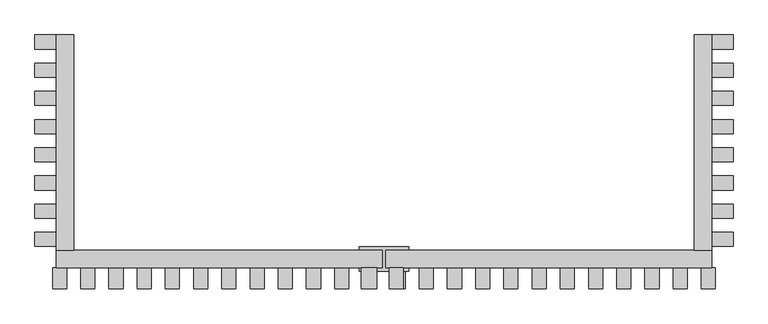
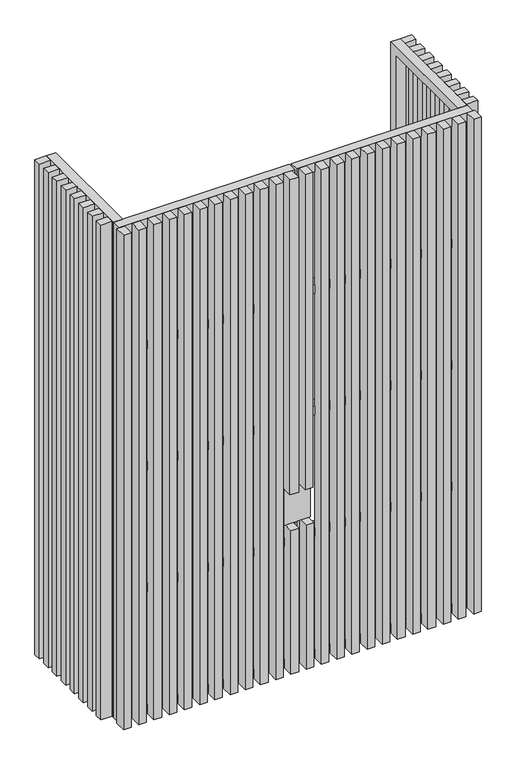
"""IFC4 building model written with IfcOpenShell, lengths in millimetres: furniture geometry, ARQ-MB-EX-Al : ARQ-MB-EX-Al."""

from ifc_helpers import new_model, si_unit, frame, origin, origin_with_axes, place, context, project, spatial, polyline, outline, extrude, source, transform, mapped, element, save


def furniture_89fc56a2(model_context):
    return source(origin(), model_context, "Body", "SweptSolid", [
        extrude(outline(polyline([(99.7003264, -700.0), (99.7003264, -760.0), (59.7003264, -760.0), (59.7003264, -700.0), (99.7003264, -700.0)])), frame((0.0, 0.0, 1000.0), z_axis=(0.0, 0.0, 1.0), x_axis=(1.0, 0.0, 0.0)), (0.0, 0.0, 1.0), 1750.0),
        extrude(outline(polyline([(-20.2996736, -700.0), (24.7003264, -700.0), (24.7003264, -760.0), (-20.2996736, -760.0), (-20.2996736, -700.0)])), frame((0.0, 0.0, 1000.0), z_axis=(0.0, 0.0, 1.0), x_axis=(1.0, 0.0, 0.0)), (0.0, 0.0, 1.0), 1750.0),
        extrude(outline(polyline([(-650.0, 2750.0), (-40.0, 2750.0), (-40.0, 0.0), (-650.0, 0.0), (-650.0, 2750.0)]), holes=[polyline([(-600.0, 2025.0), (-600.0, 1400.0), (-90.0, 1400.0), (-90.0, 2025.0), (-600.0, 2025.0)]), polyline([(-90.0, 675.0), (-600.0, 675.0), (-600.0, 50.0), (-90.0, 50.0), (-90.0, 675.0)]), polyline([(-600.0, 1350.0), (-600.0, 725.0), (-90.0, 725.0), (-90.0, 1350.0), (-600.0, 1350.0)]), polyline([(-600.0, 2700.0), (-600.0, 2075.0), (-90.0, 2075.0), (-90.0, 2700.0), (-600.0, 2700.0)])]), frame((-885.2996736, 0.0, 0.0), z_axis=(1.0, 0.0, 0.0), x_axis=(0.0, 1.0, 0.0)), (0.0, 0.0, 1.0), 50.0),
        extrude(outline(polyline([(-650.0, 2750.0), (-40.0, 2750.0), (-40.0, 0.0), (-650.0, 0.0), (-650.0, 2750.0)]), holes=[polyline([(-600.0, 50.0), (-90.0, 50.0), (-90.0, 675.0), (-600.0, 675.0), (-600.0, 50.0)]), polyline([(-90.0, 1350.0), (-600.0, 1350.0), (-600.0, 725.0), (-90.0, 725.0), (-90.0, 1350.0)]), polyline([(-90.0, 2700.0), (-600.0, 2700.0), (-600.0, 2075.0), (-90.0, 2075.0), (-90.0, 2700.0)]), polyline([(-90.0, 2025.0), (-600.0, 2025.0), (-600.0, 1400.0), (-90.0, 1400.0), (-90.0, 2025.0)])]), frame((924.7003264, 0.0, 0.0), z_axis=(1.0, 0.0, 0.0), x_axis=(0.0, 1.0, 0.0)), (0.0, 0.0, 1.0), 50.0),
        extrude(outline(polyline([(0.0, 39.7003264), (2750.0, 39.7003264), (2750.0, -885.2996736), (0.0, -885.2996736), (0.0, 39.7003264)]), holes=[polyline([(50.0, -10.2996736), (50.0, -835.2996736), (675.0, -835.2996736), (675.0, -10.2996736), (50.0, -10.2996736)]), polyline([(2075.0, -835.2996736), (2700.0, -835.2996736), (2700.0, -10.2996736), (2075.0, -10.2996736), (2075.0, -835.2996736)]), polyline([(1400.0, -835.2996736), (2025.0, -835.2996736), (2025.0, -10.2996736), (1400.0, -10.2996736), (1400.0, -835.2996736)]), polyline([(725.0, -835.2996736), (1350.0, -835.2996736), (1350.0, -10.2996736), (725.0, -10.2996736), (725.0, -835.2996736)])]), frame((0.0, -700.0, 0.0), z_axis=(0.0, 1.0, 0.0), x_axis=(0.0, 0.0, 1.0)), (0.0, 0.0, 1.0), 50.0),
        extrude(outline(polyline([(2750.0, 49.7003264), (0.0, 49.7003264), (0.0, 974.7003264), (2750.0, 974.7003264), (2750.0, 49.7003264)]), holes=[polyline([(675.0, 934.7003264), (50.0, 934.7003264), (50.0, 99.7003264), (675.0, 99.7003264), (675.0, 934.7003264)]), polyline([(2700.0, 99.7003264), (2700.0, 934.7003264), (2075.0, 934.7003264), (2075.0, 99.7003264), (2700.0, 99.7003264)]), polyline([(1350.0, 99.7003264), (1350.0, 934.7003264), (725.0, 934.7003264), (725.0, 99.7003264), (1350.0, 99.7003264)]), polyline([(2025.0, 99.7003264), (2025.0, 934.7003264), (1400.0, 934.7003264), (1400.0, 99.7003264), (2025.0, 99.7003264)])]), frame((0.0, -700.0, 0.0), z_axis=(0.0, 1.0, 0.0), x_axis=(0.0, 0.0, 1.0)), (0.0, 0.0, 1.0), 50.0),
        extrude(outline(polyline([(-945.2996736, -40.0), (-885.2996736, -40.0), (-885.2996736, -80.0), (-945.2996736, -80.0), (-945.2996736, -40.0)])), origin_with_axes(), (0.0, 0.0, 1.0), 2750.0),
        extrude(outline(polyline([(-945.2996736, -120.0), (-885.2996736, -120.0), (-885.2996736, -160.0), (-945.2996736, -160.0), (-945.2996736, -120.0)])), origin_with_axes(), (0.0, 0.0, 1.0), 2750.0),
        extrude(outline(polyline([(-945.2996736, -200.0), (-885.2996736, -200.0), (-885.2996736, -240.0), (-945.2996736, -240.0), (-945.2996736, -200.0)])), origin_with_axes(), (0.0, 0.0, 1.0), 2750.0),
        extrude(outline(polyline([(-945.2996736, -280.0), (-885.2996736, -280.0), (-885.2996736, -320.0), (-945.2996736, -320.0), (-945.2996736, -280.0)])), origin_with_axes(), (0.0, 0.0, 1.0), 2750.0),
        extrude(outline(polyline([(-945.2996736, -360.0), (-885.2996736, -360.0), (-885.2996736, -400.0), (-945.2996736, -400.0), (-945.2996736, -360.0)])), origin_with_axes(), (0.0, 0.0, 1.0), 2750.0),
        extrude(outline(polyline([(-945.2996736, -440.0), (-885.2996736, -440.0), (-885.2996736, -480.0), (-945.2996736, -480.0), (-945.2996736, -440.0)])), origin_with_axes(), (0.0, 0.0, 1.0), 2750.0),
        extrude(outline(polyline([(-945.2996736, -520.0), (-885.2996736, -520.0), (-885.2996736, -560.0), (-945.2996736, -560.0), (-945.2996736, -520.0)])), origin_with_axes(), (0.0, 0.0, 1.0), 2750.0),
        extrude(outline(polyline([(-945.2996736, -600.0), (-885.2996736, -600.0), (-885.2996736, -640.0), (-945.2996736, -640.0), (-945.2996736, -600.0)])), origin_with_axes(), (0.0, 0.0, 1.0), 2750.0),
        extrude(outline(polyline([(974.7003264, -40.0), (1034.7003264, -40.0), (1034.7003264, -80.0), (974.7003264, -80.0), (974.7003264, -40.0)])), origin_with_axes(), (0.0, 0.0, 1.0), 2750.0),
        extrude(outline(polyline([(974.7003264, -120.0), (1034.7003264, -120.0), (1034.7003264, -160.0), (974.7003264, -160.0), (974.7003264, -120.0)])), origin_with_axes(), (0.0, 0.0, 1.0), 2750.0),
        extrude(outline(polyline([(974.7003264, -200.0), (1034.7003264, -200.0), (1034.7003264, -240.0), (974.7003264, -240.0), (974.7003264, -200.0)])), origin_with_axes(), (0.0, 0.0, 1.0), 2750.0),
        extrude(outline(polyline([(974.7003264, -280.0), (1034.7003264, -280.0), (1034.7003264, -320.0), (974.7003264, -320.0), (974.7003264, -280.0)])), origin_with_axes(), (0.0, 0.0, 1.0), 2750.0),
        extrude(outline(polyline([(974.7003264, -360.0), (1034.7003264, -360.0), (1034.7003264, -400.0), (974.7003264, -400.0), (974.7003264, -360.0)])), origin_with_axes(), (0.0, 0.0, 1.0), 2750.0),
        extrude(outline(polyline([(974.7003264, -440.0), (1034.7003264, -440.0), (1034.7003264, -480.0), (974.7003264, -480.0), (974.7003264, -440.0)])), origin_with_axes(), (0.0, 0.0, 1.0), 2750.0),
        extrude(outline(polyline([(974.7003264, -520.0), (1034.7003264, -520.0), (1034.7003264, -560.0), (974.7003264, -560.0), (974.7003264, -520.0)])), origin_with_axes(), (0.0, 0.0, 1.0), 2750.0),
        extrude(outline(polyline([(974.7003264, -600.0), (1034.7003264, -600.0), (1034.7003264, -640.0), (974.7003264, -640.0), (974.7003264, -600.0)])), origin_with_axes(), (0.0, 0.0, 1.0), 2750.0),
        extrude(outline(polyline([(-895.2996736, -760.0), (-895.2996736, -700.0), (-855.2996736, -700.0), (-855.2996736, -760.0), (-895.2996736, -760.0)])), origin_with_axes(), (0.0, 0.0, 1.0), 2750.0),
        extrude(outline(polyline([(-815.2996736, -760.0), (-815.2996736, -700.0), (-775.2996736, -700.0), (-775.2996736, -760.0), (-815.2996736, -760.0)])), origin_with_axes(), (0.0, 0.0, 1.0), 2750.0),
        extrude(outline(polyline([(-735.2996736, -760.0), (-735.2996736, -700.0), (-695.2996736, -700.0), (-695.2996736, -760.0), (-735.2996736, -760.0)])), origin_with_axes(), (0.0, 0.0, 1.0), 2750.0),
        extrude(outline(polyline([(-655.2996736, -760.0), (-655.2996736, -700.0), (-615.2996736, -700.0), (-615.2996736, -760.0), (-655.2996736, -760.0)])), origin_with_axes(), (0.0, 0.0, 1.0), 2750.0),
        extrude(outline(polyline([(-575.2996736, -760.0), (-575.2996736, -700.0), (-535.2996736, -700.0), (-535.2996736, -760.0), (-575.2996736, -760.0)])), origin_with_axes(), (0.0, 0.0, 1.0), 2750.0),
        extrude(outline(polyline([(-495.2996736, -760.0), (-495.2996736, -700.0), (-455.2996736, -700.0), (-455.2996736, -760.0), (-495.2996736, -760.0)])), origin_with_axes(), (0.0, 0.0, 1.0), 2750.0),
        extrude(outline(polyline([(-415.2996736, -760.0), (-415.2996736, -700.0), (-375.2996736, -700.0), (-375.2996736, -760.0), (-415.2996736, -760.0)])), origin_with_axes(), (0.0, 0.0, 1.0), 2750.0),
        extrude(outline(polyline([(-335.2996736, -760.0), (-335.2996736, -700.0), (-295.2996736, -700.0), (-295.2996736, -760.0), (-335.2996736, -760.0)])), origin_with_axes(), (0.0, 0.0, 1.0), 2750.0),
        extrude(outline(polyline([(-255.2996736, -760.0), (-255.2996736, -700.0), (-215.2996736, -700.0), (-215.2996736, -760.0), (-255.2996736, -760.0)])), origin_with_axes(), (0.0, 0.0, 1.0), 2750.0),
        extrude(outline(polyline([(-175.2996736, -760.0), (-175.2996736, -700.0), (-135.2996736, -700.0), (-135.2996736, -760.0), (-175.2996736, -760.0)])), origin_with_axes(), (0.0, 0.0, 1.0), 2750.0),
        extrude(outline(polyline([(-95.2996736, -760.0), (-95.2996736, -700.0), (-55.2996736, -700.0), (-55.2996736, -760.0), (-95.2996736, -760.0)])), origin_with_axes(), (0.0, 0.0, 1.0), 2750.0),
        extrude(outline(polyline([(144.7003264, -760.0), (144.7003264, -700.0), (184.7003264, -700.0), (184.7003264, -760.0), (144.7003264, -760.0)])), origin_with_axes(), (0.0, 0.0, 1.0), 2750.0),
        extrude(outline(polyline([(224.7003264, -760.0), (224.7003264, -700.0), (264.7003264, -700.0), (264.7003264, -760.0), (224.7003264, -760.0)])), origin_with_axes(), (0.0, 0.0, 1.0), 2750.0),
        extrude(outline(polyline([(304.7003264, -760.0), (304.7003264, -700.0), (344.7003264, -700.0), (344.7003264, -760.0), (304.7003264, -760.0)])), origin_with_axes(), (0.0, 0.0, 1.0), 2750.0),
        extrude(outline(polyline([(384.7003264, -760.0), (384.7003264, -700.0), (424.7003264, -700.0), (424.7003264, -760.0), (384.7003264, -760.0)])), origin_with_axes(), (0.0, 0.0, 1.0), 2750.0),
        extrude(outline(polyline([(464.7003264, -760.0), (464.7003264, -700.0), (504.7003264, -700.0), (504.7003264, -760.0), (464.7003264, -760.0)])), origin_with_axes(), (0.0, 0.0, 1.0), 2750.0),
        extrude(outline(polyline([(544.7003264, -760.0), (544.7003264, -700.0), (584.7003264, -700.0), (584.7003264, -760.0), (544.7003264, -760.0)])), origin_with_axes(), (0.0, 0.0, 1.0), 2750.0),
        extrude(outline(polyline([(624.7003264, -760.0), (624.7003264, -700.0), (664.7003264, -700.0), (664.7003264, -760.0), (624.7003264, -760.0)])), origin_with_axes(), (0.0, 0.0, 1.0), 2750.0),
        extrude(outline(polyline([(704.7003264, -760.0), (704.7003264, -700.0), (744.7003264, -700.0), (744.7003264, -760.0), (704.7003264, -760.0)])), origin_with_axes(), (0.0, 0.0, 1.0), 2750.0),
        extrude(outline(polyline([(784.7003264, -760.0), (784.7003264, -700.0), (824.7003264, -700.0), (824.7003264, -760.0), (784.7003264, -760.0)])), origin_with_axes(), (0.0, 0.0, 1.0), 2750.0),
        extrude(outline(polyline([(864.7003264, -760.0), (864.7003264, -700.0), (904.7003264, -700.0), (904.7003264, -760.0), (864.7003264, -760.0)])), origin_with_axes(), (0.0, 0.0, 1.0), 2750.0),
        extrude(outline(polyline([(944.7003264, -760.0), (944.7003264, -700.0), (984.7003264, -700.0), (984.7003264, -760.0), (944.7003264, -760.0)])), origin_with_axes(), (0.0, 0.0, 1.0), 2750.0),
        extrude(outline(polyline([(104.7003264, -700.0), (104.7003264, -760.0), (64.7003264, -760.0), (64.7003264, -700.0), (104.7003264, -700.0)])), origin_with_axes(), (0.0, 0.0, 1.0), 800.0),
        extrude(outline(polyline([(-15.2996736, -700.0), (24.7003264, -700.0), (24.7003264, -760.0), (-15.2996736, -760.0), (-15.2996736, -700.0)])), origin_with_axes(), (0.0, 0.0, 1.0), 800.0),
        extrude(outline(polyline([(114.7003264, -710.0), (-25.2996736, -710.0), (-25.2996736, -640.0), (114.7003264, -640.0), (114.7003264, -710.0)])), frame((0.0, 0.0, 800.0), z_axis=(0.0, 0.0, 1.0), x_axis=(1.0, 0.0, 0.0)), (0.0, 0.0, 1.0), 200.0),
    ])


if __name__ == "__main__":
    model = new_model("IFC4")
    model_context = context("Model", 3, world=origin())
    ifc_project = project(units=[si_unit("LENGTHUNIT", "METRE", prefix="MILLI")], contexts=[model_context])
    site = spatial("IfcSite", under=ifc_project)
    building = spatial("IfcBuilding", under=site)
    placement = place(None, origin())
    furniture_shape = furniture_89fc56a2(model_context)
    element("IfcFurniture", 1, ObjectType="ARQ-MB-EX-Al : ARQ-MB-EX-Al", at=placement, inside=building, context=model_context, shape_type="MappedRepresentation", body=[
        mapped(furniture_shape, transform((0.0, 0.0, 0.0), x_axis=(1.0, 0.0, 0.0), y_axis=(0.0, 1.0, 0.0), z_axis=(0.0, 0.0, 1.0))),
    ])
    save(model, "model.ifc")
